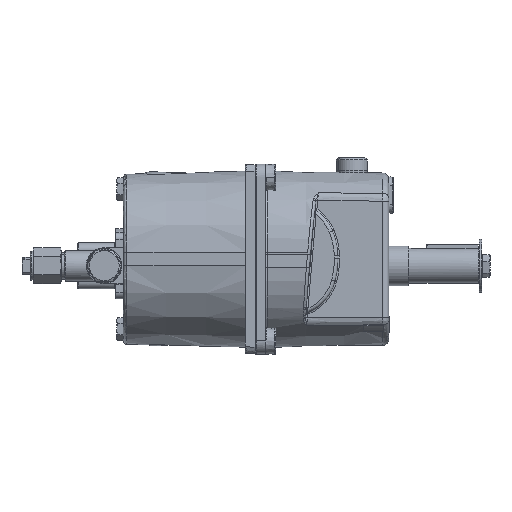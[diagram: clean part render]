
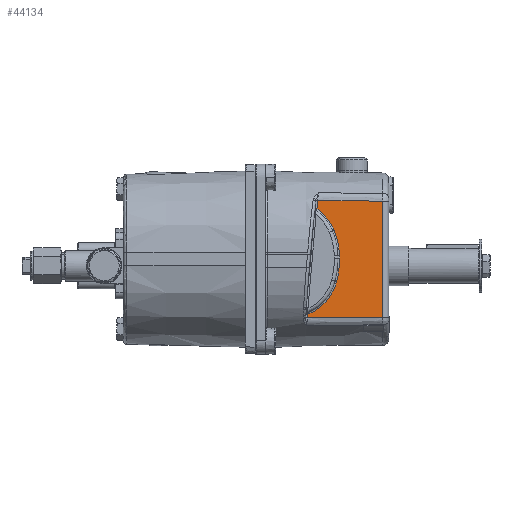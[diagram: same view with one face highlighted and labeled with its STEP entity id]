
A CAD part, top view. The second image highlights one B-rep face of the part: STEP entity #44134.
In plain terms, the highlighted planar face has unit normal (0.018, 0, 1).
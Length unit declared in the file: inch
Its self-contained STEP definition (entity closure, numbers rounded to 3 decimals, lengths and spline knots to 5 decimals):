
#887 = CARTESIAN_POINT ( 'NONE',  ( 3.03914, 1.83649, 1.62109 ) ) ;
#1363 = CARTESIAN_POINT ( 'NONE',  ( 2.32765, -1.467, 1.63351 ) ) ;
#2109 = CARTESIAN_POINT ( 'NONE',  ( 3.03914, 1.83511, 1.62109 ) ) ;
#2462 = B_SPLINE_CURVE_WITH_KNOTS ( 'NONE', 3,
 ( #27179, #48267, #1363, #21992 ),
 .UNSPECIFIED., .F., .F.,
 ( 4, 4 ),
 ( 0.00119, 0.05541 ),
 .UNSPECIFIED. ) ;
#2649 =( BOUNDED_CURVE ( )  B_SPLINE_CURVE ( 3, ( #15810, #36829, #57882, #10757 ),
 .UNSPECIFIED., .F., .T. ) 
 B_SPLINE_CURVE_WITH_KNOTS ( ( 4, 4 ),
 ( 5.89887, 6.25256 ),
 .UNSPECIFIED. ) 
 CURVE ( )  GEOMETRIC_REPRESENTATION_ITEM ( )  RATIONAL_B_SPLINE_CURVE ( ( 1., 0.99, 0.99, 1. ) ) 
 REPRESENTATION_ITEM ( '' )  );
#2724 = VERTEX_POINT ( 'NONE', #63618 ) ;
#3457 = CARTESIAN_POINT ( 'NONE',  ( 1.32825, -1.21719, 1.65095 ) ) ;
#5823 = LINE ( 'NONE', #26580, #67713 ) ;
#6087 = CARTESIAN_POINT ( 'NONE',  ( 1.66448, 1.00625, 1.64508 ) ) ;
#6616 = CARTESIAN_POINT ( 'NONE',  ( 1.78896, -0.23496, 1.64291 ) ) ;
#8049 =( BOUNDED_CURVE ( )  B_SPLINE_CURVE ( 3, ( #44307, #65265, #18074, #39126 ),
 .UNSPECIFIED., .F., .F. ) 
 B_SPLINE_CURVE_WITH_KNOTS ( ( 4, 4 ),
 ( 5.31217, 5.89887 ),
 .UNSPECIFIED. ) 
 CURVE ( )  GEOMETRIC_REPRESENTATION_ITEM ( )  RATIONAL_B_SPLINE_CURVE ( ( 1., 0.972, 0.972, 1. ) ) 
 REPRESENTATION_ITEM ( '' )  );
#8240 = EDGE_CURVE ( 'NONE', #43532, #30790, #33158, .T. ) ;
#8303 = CARTESIAN_POINT ( 'NONE',  ( 1.8167, 0.23482, 1.64242 ) ) ;
#8492 = CARTESIAN_POINT ( 'NONE',  ( 0.90468, -1.47794, 1.65834 ) ) ;
#8513 = EDGE_CURVE ( 'NONE', #42588, #43532, #54294, .T. ) ;
#10757 = CARTESIAN_POINT ( 'NONE',  ( 1.81545, 0.28903, 1.64245 ) ) ;
#10879 = EDGE_CURVE ( 'NONE', #2724, #48800, #49034, .T. ) ;
#11725 = DIRECTION ( 'NONE',  ( -0.017, 0., -1. ) ) ;
#12870 = EDGE_CURVE ( 'NONE', #54413, #53585, #2649, .T. ) ;
#12969 = CARTESIAN_POINT ( 'NONE',  ( 1.81545, 0.28903, 1.64245 ) ) ;
#14969 = CARTESIAN_POINT ( 'NONE',  ( 1.19563, 1.85071, 1.65327 ) ) ;
#15810 = CARTESIAN_POINT ( 'NONE',  ( 1.66448, 1.00625, 1.64508 ) ) ;
#17331 = VECTOR ( 'NONE', #18754, 39.37008 ) ;
#18074 = CARTESIAN_POINT ( 'NONE',  ( 1.56405, 1.25458, 1.64683 ) ) ;
#18597 = B_SPLINE_CURVE_WITH_KNOTS ( 'NONE', 3,
 ( #20068, #41139, #62146, #14969 ),
 .UNSPECIFIED., .F., .F.,
 ( 4, 4 ),
 ( 0.00449, 0.05133 ),
 .UNSPECIFIED. ) ;
#18754 = DIRECTION ( 'NONE',  ( -0.087, -0.996, 0.002 ) ) ;
#20068 = CARTESIAN_POINT ( 'NONE',  ( 3.03914, 1.83649, 1.62109 ) ) ;
#20127 = VECTOR ( 'NONE', #22756, 39.37008 ) ;
#21992 = CARTESIAN_POINT ( 'NONE',  ( 3.03914, -1.46149, 1.62109 ) ) ;
#22117 = CARTESIAN_POINT ( 'NONE',  ( 1.73392, -0.45024, 1.64387 ) ) ;
#22756 = DIRECTION ( 'NONE',  ( 0., 1., 0. ) ) ;
#24163 = CARTESIAN_POINT ( 'NONE',  ( 1.17498, 1.61447, 1.65363 ) ) ;
#24176 = CARTESIAN_POINT ( 'NONE',  ( 0.91316, -1.38089, 1.6582 ) ) ;
#26580 = CARTESIAN_POINT ( 'NONE',  ( 1.08294, 0.5615, 1.65523 ) ) ;
#26644 =( BOUNDED_CURVE ( )  B_SPLINE_CURVE ( 3, ( #34374, #55392, #8303, #29152 ),
 .UNSPECIFIED., .F., .T. ) 
 B_SPLINE_CURVE_WITH_KNOTS ( ( 4, 4 ),
 ( 6.25256, 6.28319 ),
 .UNSPECIFIED. ) 
 CURVE ( )  GEOMETRIC_REPRESENTATION_ITEM ( )  RATIONAL_B_SPLINE_CURVE ( ( 1., 1., 1., 1. ) ) 
 REPRESENTATION_ITEM ( '' )  );
#27179 = CARTESIAN_POINT ( 'NONE',  ( 0.90468, -1.47794, 1.65834 ) ) ;
#27403 = CARTESIAN_POINT ( 'NONE',  ( 1.73392, -0.45024, 1.64387 ) ) ;
#28625 = EDGE_CURVE ( 'NONE', #58203, #2724, #2462, .T. ) ;
#29152 = CARTESIAN_POINT ( 'NONE',  ( 1.8167, 0.20771, 1.64242 ) ) ;
#29342 = CARTESIAN_POINT ( 'NONE',  ( 1.73392, -0.45024, 1.64387 ) ) ;
#30790 = VERTEX_POINT ( 'NONE', #48040 ) ;
#31996 = FACE_OUTER_BOUND ( 'NONE', #57129, .T. ) ;
#32647 = CARTESIAN_POINT ( 'NONE',  ( 1.8167, 0.20771, 1.64242 ) ) ;
#32670 = DIRECTION ( 'NONE',  ( -1., 0., 0.017 ) ) ;
#33158 =( BOUNDED_CURVE ( )  B_SPLINE_CURVE ( 3, ( #29342, #50412, #3457, #24176 ),
 .UNSPECIFIED., .F., .F. ) 
 B_SPLINE_CURVE_WITH_KNOTS ( ( 4, 4 ),
 ( 0.25032, 1.19516 ),
 .UNSPECIFIED. ) 
 CURVE ( )  GEOMETRIC_REPRESENTATION_ITEM ( )  RATIONAL_B_SPLINE_CURVE ( ( 1., 0.927, 0.927, 1. ) ) 
 REPRESENTATION_ITEM ( '' )  );
#34374 = CARTESIAN_POINT ( 'NONE',  ( 1.81545, 0.28903, 1.64245 ) ) ;
#36829 = CARTESIAN_POINT ( 'NONE',  ( 1.75704, 0.77738, 1.64347 ) ) ;
#39126 = CARTESIAN_POINT ( 'NONE',  ( 1.66448, 1.00625, 1.64508 ) ) ;
#41079 = CARTESIAN_POINT ( 'NONE',  ( 1.19563, 1.85071, 1.65327 ) ) ;
#41139 = CARTESIAN_POINT ( 'NONE',  ( 2.42464, 1.84125, 1.63181 ) ) ;
#41987 = VERTEX_POINT ( 'NONE', #24163 ) ;
#42588 = VERTEX_POINT ( 'NONE', #59645 ) ;
#43532 = VERTEX_POINT ( 'NONE', #22117 ) ;
#44134 = ADVANCED_FACE ( 'NONE', ( #31996 ), #53036, .F. ) ;
#44307 = CARTESIAN_POINT ( 'NONE',  ( 1.17498, 1.61447, 1.65363 ) ) ;
#44996 = LINE ( 'NONE', #65963, #17331 ) ;
#47103 = EDGE_CURVE ( 'NONE', #53585, #42588, #26644, .T. ) ;
#47680 = DIRECTION ( 'NONE',  ( -0.087, -0.996, 0.002 ) ) ;
#48040 = CARTESIAN_POINT ( 'NONE',  ( 0.91316, -1.38089, 1.6582 ) ) ;
#48267 = CARTESIAN_POINT ( 'NONE',  ( 1.61617, -1.47248, 1.64593 ) ) ;
#48800 = VERTEX_POINT ( 'NONE', #887 ) ;
#49034 = LINE ( 'NONE', #2109, #20127 ) ;
#49838 = EDGE_CURVE ( 'NONE', #30790, #58203, #44996, .T. ) ;
#50412 = CARTESIAN_POINT ( 'NONE',  ( 1.62339, -0.88254, 1.6458 ) ) ;
#51936 = EDGE_CURVE ( 'NONE', #48800, #59252, #18597, .T. ) ;
#53036 = PLANE ( 'NONE',  #53284 ) ;
#53284 = AXIS2_PLACEMENT_3D ( 'NONE', #58867, #11725, #32670 ) ;
#53585 = VERTEX_POINT ( 'NONE', #12969 ) ;
#53686 = CARTESIAN_POINT ( 'NONE',  ( 1.8167, -0.0145, 1.64242 ) ) ;
#54294 =( BOUNDED_CURVE ( )  B_SPLINE_CURVE ( 3, ( #32647, #53686, #6616, #27403 ),
 .UNSPECIFIED., .F., .T. ) 
 B_SPLINE_CURVE_WITH_KNOTS ( ( 4, 4 ),
 ( 0., 0.25032 ),
 .UNSPECIFIED. ) 
 CURVE ( )  GEOMETRIC_REPRESENTATION_ITEM ( )  RATIONAL_B_SPLINE_CURVE ( ( 1., 0.995, 0.995, 1. ) ) 
 REPRESENTATION_ITEM ( '' )  );
#54413 = VERTEX_POINT ( 'NONE', #6087 ) ;
#55392 = CARTESIAN_POINT ( 'NONE',  ( 1.81628, 0.26193, 1.64243 ) ) ;
#57129 = EDGE_LOOP ( 'NONE', ( #60389, #60705, #60790, #61066, #61144, #61435, #61489, #61572, #62005, #62090 ) ) ;
#57882 = CARTESIAN_POINT ( 'NONE',  ( 1.80789, 0.53579, 1.64258 ) ) ;
#58203 = VERTEX_POINT ( 'NONE', #8492 ) ;
#58867 = CARTESIAN_POINT ( 'NONE',  ( 3.216, 0.375, 1.618 ) ) ;
#59252 = VERTEX_POINT ( 'NONE', #41079 ) ;
#59645 = CARTESIAN_POINT ( 'NONE',  ( 1.8167, 0.20771, 1.64242 ) ) ;
#60389 = ORIENTED_EDGE ( 'NONE', *, *, #8240, .T. ) ;
#60705 = ORIENTED_EDGE ( 'NONE', *, *, #49838, .T. ) ;
#60790 = ORIENTED_EDGE ( 'NONE', *, *, #28625, .T. ) ;
#61066 = ORIENTED_EDGE ( 'NONE', *, *, #10879, .T. ) ;
#61144 = ORIENTED_EDGE ( 'NONE', *, *, #51936, .T. ) ;
#61435 = ORIENTED_EDGE ( 'NONE', *, *, #66568, .T. ) ;
#61489 = ORIENTED_EDGE ( 'NONE', *, *, #66437, .T. ) ;
#61572 = ORIENTED_EDGE ( 'NONE', *, *, #12870, .T. ) ;
#62005 = ORIENTED_EDGE ( 'NONE', *, *, #47103, .T. ) ;
#62090 = ORIENTED_EDGE ( 'NONE', *, *, #8513, .T. ) ;
#62146 = CARTESIAN_POINT ( 'NONE',  ( 1.81013, 1.84599, 1.64254 ) ) ;
#63618 = CARTESIAN_POINT ( 'NONE',  ( 3.03914, -1.46149, 1.62109 ) ) ;
#65265 = CARTESIAN_POINT ( 'NONE',  ( 1.3961, 1.46326, 1.64977 ) ) ;
#65963 = CARTESIAN_POINT ( 'NONE',  ( 1.08294, 0.5615, 1.65523 ) ) ;
#66437 = EDGE_CURVE ( 'NONE', #41987, #54413, #8049, .T. ) ;
#66568 = EDGE_CURVE ( 'NONE', #59252, #41987, #5823, .T. ) ;
#67713 = VECTOR ( 'NONE', #47680, 39.37008 ) ;
